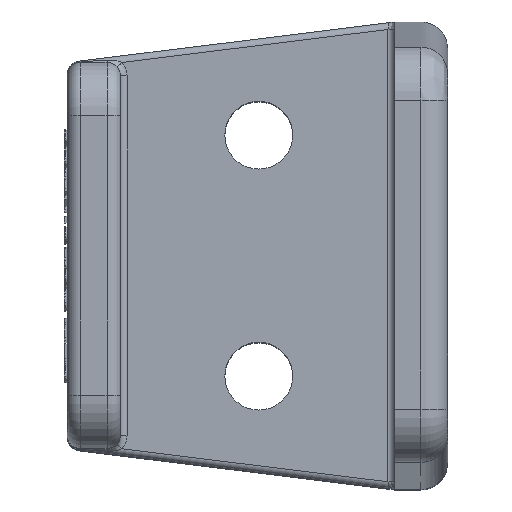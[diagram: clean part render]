
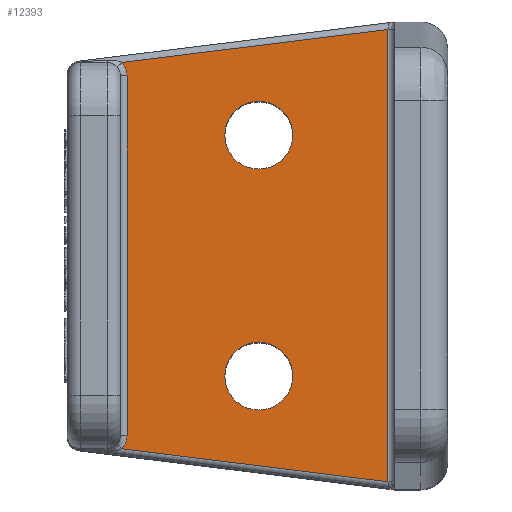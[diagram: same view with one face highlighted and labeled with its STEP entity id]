
A CAD part, top view. The second image highlights one B-rep face of the part: STEP entity #12393.
In plain terms, the highlighted planar face has unit normal (0, 0, 1).
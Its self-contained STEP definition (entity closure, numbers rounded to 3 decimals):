
#139=CARTESIAN_POINT('',(-10.2,-9.05,15.95));
#140=DIRECTION('',(0.,0.,1.));
#141=DIRECTION('',(1.,0.,0.));
#142=AXIS2_PLACEMENT_3D('',#139,#140,#141);
#144=CARTESIAN_POINT('',(-10.2,-9.05,15.95));
#145=DIRECTION('',(0.,0.,1.));
#146=DIRECTION('',(-1.,0.,0.));
#147=AXIS2_PLACEMENT_3D('',#144,#145,#146);
#149=CARTESIAN_POINT('',(-10.2,9.05,15.95));
#150=DIRECTION('',(0.,0.,1.));
#151=DIRECTION('',(1.,0.,0.));
#152=AXIS2_PLACEMENT_3D('',#149,#150,#151);
#154=CARTESIAN_POINT('',(-10.2,9.05,15.95));
#155=DIRECTION('',(0.,0.,1.));
#156=DIRECTION('',(-1.,0.,0.));
#157=AXIS2_PLACEMENT_3D('',#154,#155,#156);
#159=DIRECTION('',(0.,1.,0.));
#160=VECTOR('',#159,33.968);
#161=CARTESIAN_POINT('',(-0.5,-16.984,
15.95));
#162=LINE('',#161,#160);
#163=DIRECTION('',(-0.992,0.123,0.));
#164=VECTOR('',#163,20.14);
#165=CARTESIAN_POINT('',(-0.5,-16.984,
15.95));
#166=LINE('',#165,#164);
#167=CARTESIAN_POINT('',(-21.6,-13.5,15.95));
#168=DIRECTION('',(0.,0.,-1.));
#169=DIRECTION('',(1.,0.,0.));
#170=AXIS2_PLACEMENT_3D('',#167,#168,#169);
#172=DIRECTION('',(0.,-1.,0.));
#173=VECTOR('',#172,27.);
#174=CARTESIAN_POINT('',(-20.1,13.5,15.95));
#175=LINE('',#174,#173);
#176=CARTESIAN_POINT('',(-21.6,13.5,15.95));
#177=DIRECTION('',(0.,0.,-1.));
#178=DIRECTION('',(0.742,0.671,0.));
#179=AXIS2_PLACEMENT_3D('',#176,#177,#178);
#181=DIRECTION('',(0.992,0.123,0.));
#182=VECTOR('',#181,20.14);
#183=CARTESIAN_POINT('',(-20.487,14.506,15.95));
#184=LINE('',#183,#182);
#775=CARTESIAN_POINT('',(-0.5,16.984,15.95));
#878=CARTESIAN_POINT('',(-20.487,-14.506,15.95));
#9574=CARTESIAN_POINT('',(-7.65,9.05,15.95));
#9575=VERTEX_POINT('',#9574);
#9576=CARTESIAN_POINT('',(-12.75,9.05,15.95));
#9577=VERTEX_POINT('',#9576);
#9578=CARTESIAN_POINT('',(-7.65,-9.05,15.95));
#9579=VERTEX_POINT('',#9578);
#9580=CARTESIAN_POINT('',(-12.75,-9.05,15.95));
#9581=VERTEX_POINT('',#9580);
#11767=VERTEX_POINT('',#878);
#11769=CARTESIAN_POINT('',(-20.1,-13.5,15.95));
#11770=VERTEX_POINT('',#11769);
#11773=CARTESIAN_POINT('',(-20.1,13.5,15.95));
#11774=VERTEX_POINT('',#11773);
#11777=CARTESIAN_POINT('',(-20.487,14.506,15.95));
#11778=VERTEX_POINT('',#11777);
#11824=VERTEX_POINT('',#775);
#11826=CARTESIAN_POINT('',(-0.5,-16.984,
15.95));
#11827=VERTEX_POINT('',#11826);
#12363=CARTESIAN_POINT('',(0.,0.,15.95));
#12364=DIRECTION('',(0.,0.,1.));
#12365=DIRECTION('',(1.,0.,0.));
#12366=AXIS2_PLACEMENT_3D('',#12363,#12364,#12365);
#12367=PLANE('',#12366);
#12368=ORIENTED_EDGE('',*,*,#12354,.F.);
#12370=ORIENTED_EDGE('',*,*,#12369,.T.);
#12372=ORIENTED_EDGE('',*,*,#12371,.F.);
#12374=ORIENTED_EDGE('',*,*,#12373,.F.);
#12376=ORIENTED_EDGE('',*,*,#12375,.F.);
#12378=ORIENTED_EDGE('',*,*,#12377,.T.);
#12379=EDGE_LOOP('',(#12368,#12370,#12372,#12374,#12376,#12378));
#12380=FACE_OUTER_BOUND('',#12379,.F.);
#12382=ORIENTED_EDGE('',*,*,#12381,.T.);
#12384=ORIENTED_EDGE('',*,*,#12383,.T.);
#12385=EDGE_LOOP('',(#12382,#12384));
#12386=FACE_BOUND('',#12385,.F.);
#12388=ORIENTED_EDGE('',*,*,#12387,.T.);
#12390=ORIENTED_EDGE('',*,*,#12389,.T.);
#12391=EDGE_LOOP('',(#12388,#12390));
#12392=FACE_BOUND('',#12391,.F.);
#12393=ADVANCED_FACE('',(#12380,#12386,#12392),#12367,.T.);
#143=CIRCLE('',#142,2.55);
#148=CIRCLE('',#147,2.55);
#153=CIRCLE('',#152,2.55);
#158=CIRCLE('',#157,2.55);
#171=CIRCLE('',#170,1.5);
#180=CIRCLE('',#179,1.5);
#12354=EDGE_CURVE('',#11827,#11824,#162,.T.);
#12369=EDGE_CURVE('',#11827,#11767,#166,.T.);
#12371=EDGE_CURVE('',#11770,#11767,#171,.T.);
#12373=EDGE_CURVE('',#11774,#11770,#175,.T.);
#12375=EDGE_CURVE('',#11778,#11774,#180,.T.);
#12377=EDGE_CURVE('',#11778,#11824,#184,.T.);
#12381=EDGE_CURVE('',#9575,#9577,#153,.T.);
#12383=EDGE_CURVE('',#9577,#9575,#158,.T.);
#12387=EDGE_CURVE('',#9579,#9581,#143,.T.);
#12389=EDGE_CURVE('',#9581,#9579,#148,.T.);
